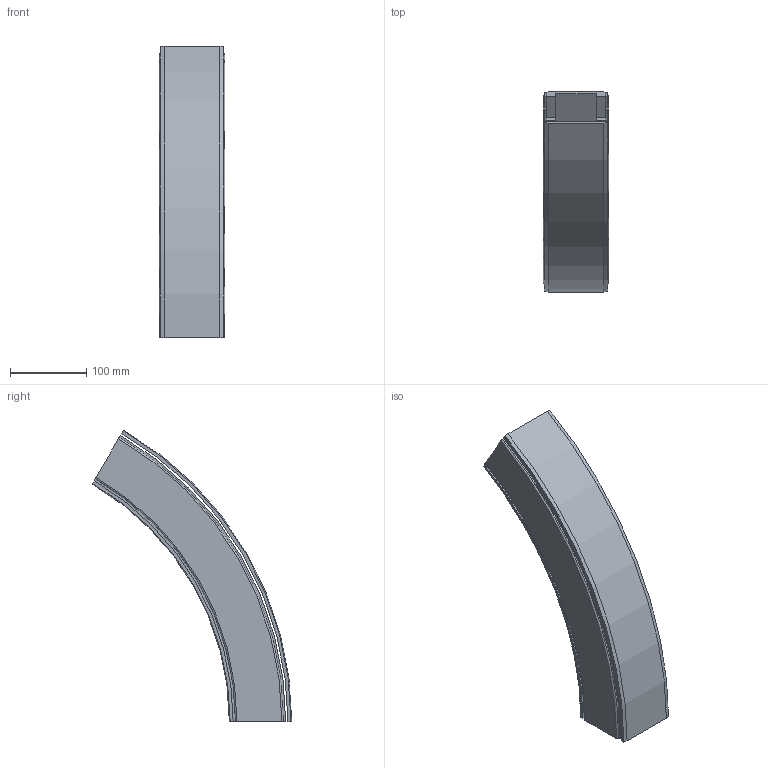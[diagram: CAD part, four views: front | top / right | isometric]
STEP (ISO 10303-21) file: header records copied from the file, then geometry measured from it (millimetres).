
FILE_DESCRIPTION((''),'2;1');
FILE_NAME('C:\Vault Klient\Projekt\Koncept konstruktion\Serie 530 Balk\530-5630_UP.stp','2010-11-23T12:38:59',('Mathias'),(''),'Autodesk Inventor 2011','Autodesk Inventor 2011','');
FILE_SCHEMA(('AUTOMOTIVE_DESIGN { 1 0 10303 214 1 1 1 1 }'));
Length unit declared in the file: millimetre
Products named in the file (1): 530-5630_UP
Bounding box: 86 x 262.25 x 383.22 mm (x, y, z)
Volume: 623138.2 mm3; surface area: 306489.7 mm2
Topology: 2 solids, 2 shells, 87 faces, 234 edges, 156 vertices
Faces by surface type: plane 40, cylinder 25, bspline 14, cone 4, torus 4
Entity records: 3141 total; most frequent: CARTESIAN_POINT 903, ORIENTED_EDGE 468, DIRECTION 428, EDGE_CURVE 234, VERTEX_POINT 156, AXIS2_PLACEMENT_3D 148, VECTOR 132, LINE 132
